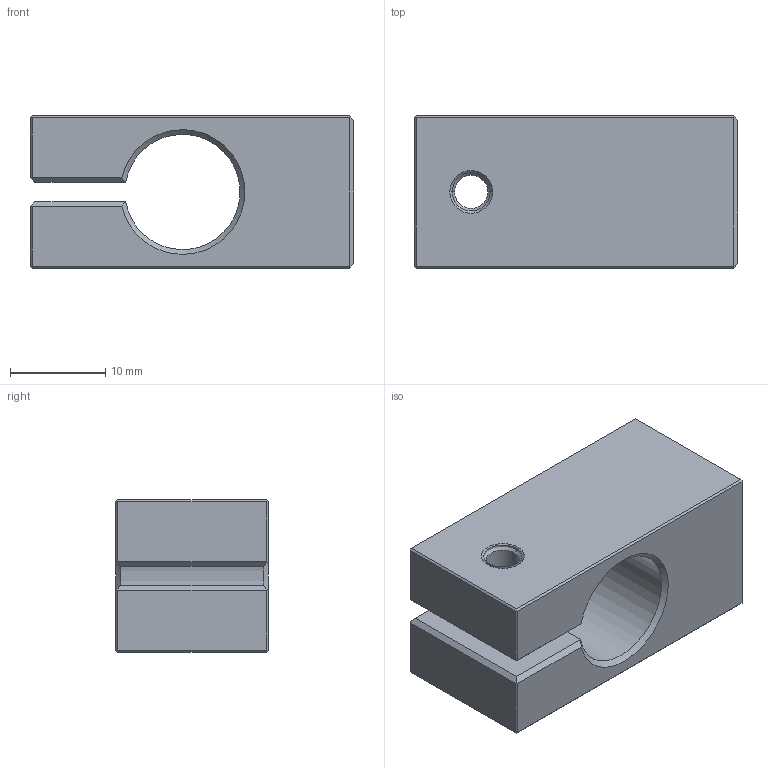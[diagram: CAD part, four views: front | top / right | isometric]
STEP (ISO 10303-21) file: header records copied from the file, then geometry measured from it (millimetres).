
FILE_DESCRIPTION((''),'2;1');
FILE_NAME('0000206870_PRT','2019-02-13T',('pdmservice'),(''),'CREO PARAMETRIC BY PTC INC, 2017170','CREO PARAMETRIC BY PTC INC, 2017170','');
FILE_SCHEMA(('AUTOMOTIVE_DESIGN { 1 0 10303 214 1 1 1 1 }'));
Length unit declared in the file: millimetre
Products named in the file (1): 0000206870_PRT
Bounding box: 34 x 16 x 16 mm (x, y, z)
Volume: 5784.1 mm3; surface area: 4311.4 mm2
Topology: 1 solids, 6 shells, 79 faces, 202 edges, 126 vertices
Faces by surface type: plane 34, cylinder 25, cone 20
Entity records: 3707 total; most frequent: DIRECTION 420, CARTESIAN_POINT 412, ORIENTED_EDGE 368, PRESENTATION_STYLE_ASSIGNMENT 200, STYLED_ITEM 200, CURVE_STYLE 194, EDGE_CURVE 194, AXIS2_PLACEMENT_3D 150
